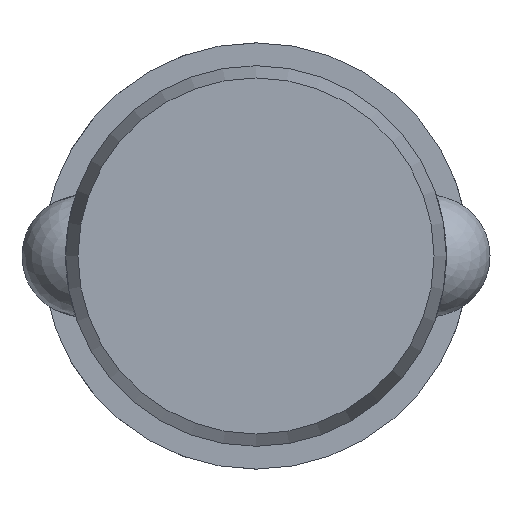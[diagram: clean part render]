
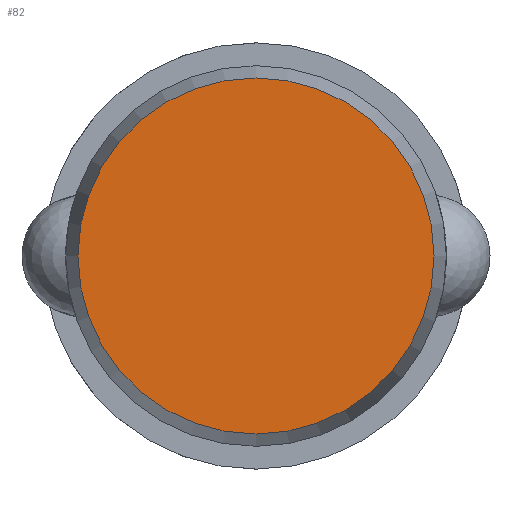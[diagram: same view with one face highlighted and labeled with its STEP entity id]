
A CAD part, left-side view. The second image highlights one B-rep face of the part: STEP entity #82.
In plain terms, the highlighted planar face has unit normal (-1, 0, 0).
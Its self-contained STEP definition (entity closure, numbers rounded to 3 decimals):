
#82 = ADVANCED_FACE( '', ( #121 ), #122, .F. );
#121 = FACE_OUTER_BOUND( '', #194, .T. );
#122 = PLANE( '', #195 );
#194 = EDGE_LOOP( '', ( #306 ) );
#195 = AXIS2_PLACEMENT_3D( '', #307, #308, #309 );
#306 = ORIENTED_EDGE( '', *, *, #465, .F. );
#307 = CARTESIAN_POINT( '', ( 0., 0., 0. ) );
#308 = DIRECTION( '', ( 1., 0., 0. ) );
#309 = DIRECTION( '', ( 0., 1., 0. ) );
#465 = EDGE_CURVE( '', #537, #537, #538, .T. );
#537 = VERTEX_POINT( '', #765 );
#538 = CIRCLE( '', #766, 11.696 );
#765 = CARTESIAN_POINT( '', ( 0., 11.696, 0. ) );
#766 = AXIS2_PLACEMENT_3D( '', #979, #980, #981 );
#979 = CARTESIAN_POINT( '', ( 0., 0., 0. ) );
#980 = DIRECTION( '', ( 1., 0., 0. ) );
#981 = DIRECTION( '', ( 0., 1., 0. ) );
